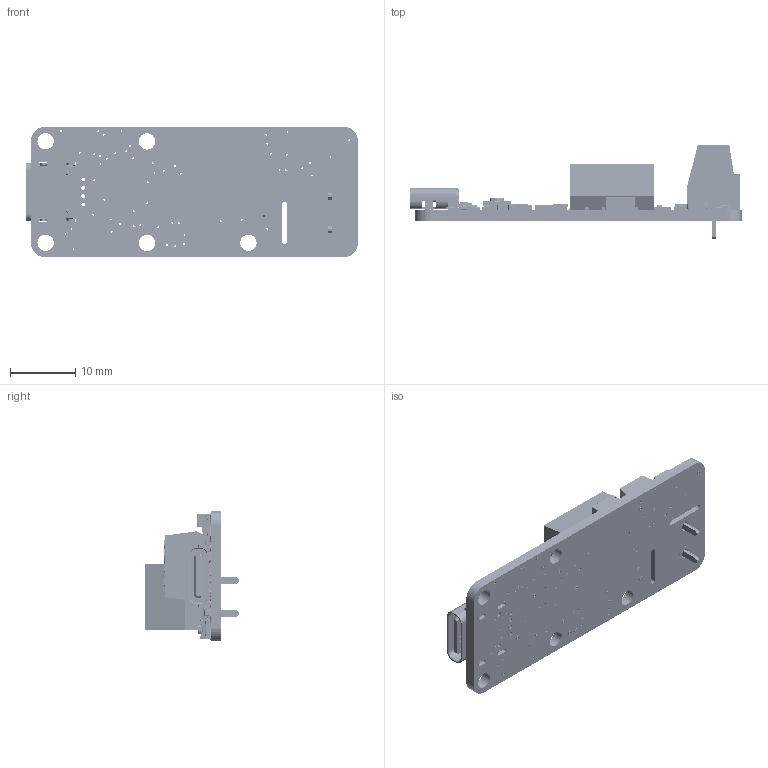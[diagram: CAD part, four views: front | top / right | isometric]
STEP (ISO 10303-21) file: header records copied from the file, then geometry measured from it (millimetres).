
FILE_DESCRIPTION (( 'STEP AP214' ), '1' );
FILE_NAME ('VLTAGE1C.STEP', '2025-01-30T13:51:02', ( '' ), ( '' ), 'SwSTEP 2.0', 'SolidWorks 2008', '' );
FILE_SCHEMA (( 'AUTOMOTIVE_DESIGN' ));
Length unit declared in the file: millimetre
Products named in the file (34): PVSS; PCB; C20; FLASH1; C16; R14; R17; IC1; C10; Alim1; C2; C19; P2; C22; L1; R1; AD1; C18; R12; R2; R5; R9; R21; REG1; R18; YLED; R19; USB1; U1; SW1; c15; sens1; VLTAGE1C; R24
Assembly tree (53 placements, depth 2):
  PVSS
  VLTAGE1C
    R9  x4
    C10  x8
    L1
    C20
    R18  x2
    R12  x2
    FLASH1
    R24  x2
    C18  x4
    R19  x2
    C19
    YLED
    R2
    Alim1
    AD1
    U1
    REG1
    C2
    R1
    R17  x4
    SW1
    R14  x2
    PCB
    IC1
    USB1
    C22
    P2
    c15
    R5
    sens1
    C16
    R21
Bounding box: 50.75 x 14.4 x 20 mm (x, y, z)
Volume: 3348.3 mm3; surface area: 4819.3 mm2
Topology: 58 solids, 58 shells, 7974 faces, 20857 edges, 13519 vertices
Faces by surface type: plane 4873, cylinder 1830, bspline 1092, sphere 160, cone 12, torus 7
Entity records: 311316 total; most frequent: CARTESIAN_POINT 87001, ORIENTED_EDGE 34862, DIRECTION 30336, EDGE_CURVE 17431, VECTOR 12568, LINE 12568, VERTEX_POINT 11479, AXIS2_PLACEMENT_3D 8884
